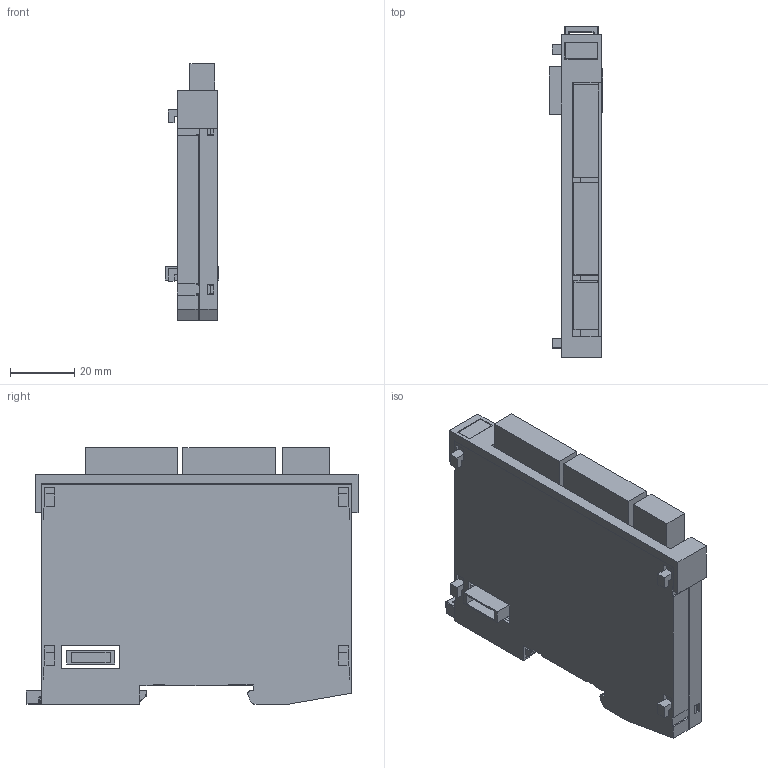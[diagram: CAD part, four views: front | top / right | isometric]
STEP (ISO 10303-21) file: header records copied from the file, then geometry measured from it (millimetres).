
FILE_DESCRIPTION (( 'STEP AP214' ), '1' );
FILE_NAME ('SNC021 support.STEP', '2017-11-17T12:52:23', ( 'SIGMATEK GmbH & Co KG' ), ( 'SIGMATEK GmbH & Co KG' ), 'SwSTEP 2.0', 'SolidWorks 2017', '' );
FILE_SCHEMA (( 'AUTOMOTIVE_DESIGN' ));
Length unit declared in the file: millimetre
Products named in the file (13): LP_SNC021; Dummy_4110262104 4pol.Federkraftstecker f.2reih 1952283; Dummy_4110251205 4pol.Minicombicon-Grundgehäuse RM3,5 1937512; Dummy_4110260022 8pol.Federkraftstecker 1reih. 1952322; Dummy_______________8pol Buchse; Dummy_4080225345 Erni Buchse; Dummy_4080225346 Erni Stift; S-Dias Rasthaken 20130313; Schieber_f Suport; S-Dias Schale rechts_f Suport; S-Dias Schale links_f Suport; 4110251342_MF 10-5 MC CABUR_1854510000; SNC021 support
Assembly tree (14 placements, depth 3):
  SNC021 support
    4110251342_MF 10-5 MC CABUR_1854510000
    S-Dias Schale links_f Suport
    S-Dias Schale rechts_f Suport
    Schieber_f Suport
    S-Dias Rasthaken 20130313
    LP_SNC021
      Dummy_4080225346 Erni Stift
      Dummy_4080225345 Erni Buchse
      Dummy_______________8pol Buchse  x2
      Dummy_4110260022 8pol.Federkraftstecker 1reih. 1952322  x2
      Dummy_4110251205 4pol.Minicombicon-Grundgehäuse RM3,5 1937512
      Dummy_4110262104 4pol.Federkraftstecker f.2reih 1952283
Bounding box: 16.8 x 103.61 x 80.13 mm (x, y, z)
Volume: 34494.9 mm3; surface area: 45638.3 mm2
Topology: 13 solids, 13 shells, 789 faces, 2293 edges, 1518 vertices
Faces by surface type: plane 550, cylinder 128, bspline 55, cone 28, torus 15, sphere 13
Entity records: 30485 total; most frequent: CARTESIAN_POINT 7239, ORIENTED_EDGE 4484, DIRECTION 3499, EDGE_CURVE 2242, LINE 1593, VECTOR 1593, VERTEX_POINT 1490, AXIS2_PLACEMENT_3D 953
